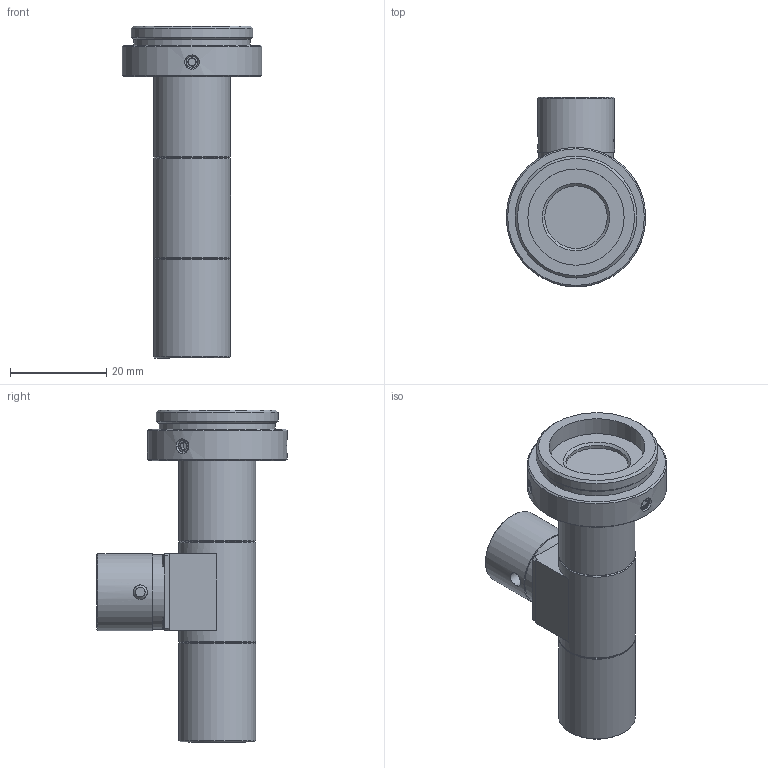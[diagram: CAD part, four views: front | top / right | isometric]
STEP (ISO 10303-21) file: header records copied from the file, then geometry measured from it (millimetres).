
FILE_DESCRIPTION(('STEP AP214'),'1');
FILE_NAME('RTK-2F-65.stp','2026-03-16T05:22:14',(' '),(' '),'Spatial InterOp 3D',' ',' ');
FILE_SCHEMA(('AUTOMOTIVE_DESIGN { 1 0 10303 214 1 1 1 1 }'));
Length unit declared in the file: metre
Products named in the file (2): RTK-2F-65; Component1
Assembly tree (1 placements, depth 2):
  RTK-2F-65
    Component1
Bounding box: 29 x 39.49 x 68.99 mm (x, y, z)
Volume: 13155.7 mm3; surface area: 10283.3 mm2
Topology: 1 solids, 4 shells, 286 faces, 688 edges, 444 vertices
Faces by surface type: plane 145, cone 82, cylinder 45, sphere 7, torus 4, bspline 3
Full cylindrical faces by diameter (mm): 2.5 x6, 3 x3, 8 x2, 9 x1, 10 x1, 12 x3, 13 x2, 13.4 x2, 13.5 x2, 13.7 x1, 14.2 x3, 14.7 x1, 15.5 x1, 16 x6, 20 x1, 24.12 x1, 25.32 x1, 29 x1
Entity records: 13332 total; most frequent: CARTESIAN_POINT 2065, DIRECTION 1296, ORIENTED_EDGE 1122, STYLED_ITEM 847, PRESENTATION_STYLE_ASSIGNMENT 847, COLOUR_RGB 847, EDGE_CURVE 561, CURVE_STYLE 561
